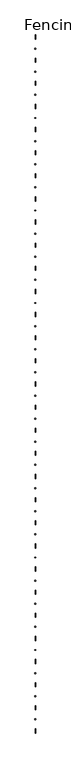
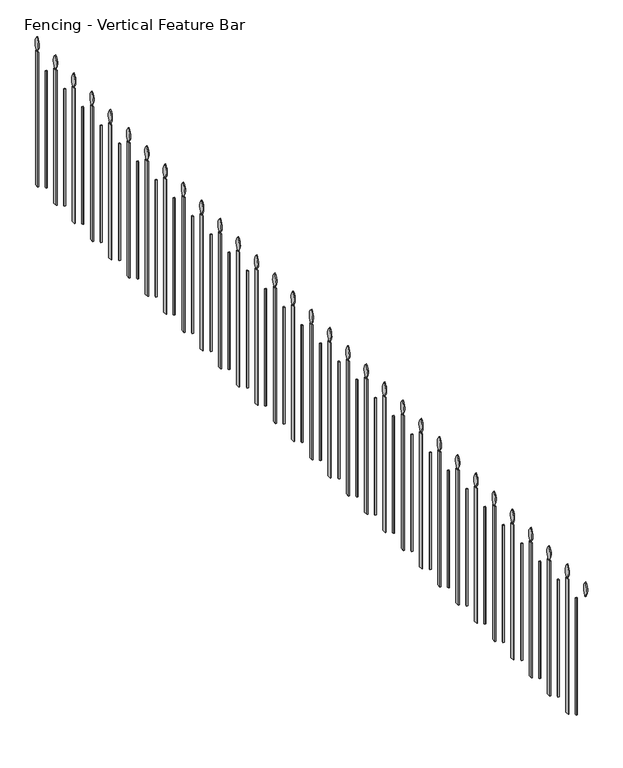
"""IFC4 building model written with IfcOpenShell, lengths in millimetres: railing geometry, Fencing - Vertical Feature Bar."""

from ifc_helpers import new_model, si_unit, point, frame, frame_2d, origin, place, context, project, spatial, polyline, circle_curve, trimmed, segment, composite_curve, outline, extrude, source, transform, mapped, element, save


def fencing_vertical_feature_bar_773a242a(model_context):
    return source(origin(), model_context, "Body", "SweptSolid", [
        extrude(outline(composite_curve([segment(polyline([(-49531.9450079, 950.0), (-49531.9450079, 955.0)]), True, "CONTINUOUS"), segment(trimmed(circle_curve(frame_2d((-49478.8047438, 998.5697142)), 68.7183212), [point((-49531.9450079, 955.0))], [point((-49529.0868221, 1045.4090168))], False, "CARTESIAN"), True, "CONTINUOUS"), segment(trimmed(circle_curve(frame_2d((-49579.3689003, 998.5697142)), 68.7183212), [point((-49529.0868221, 1045.4090168))], [point((-49526.2286362, 955.0))], False, "CARTESIAN"), True, "CONTINUOUS"), segment(polyline([(-49526.2286362, 955.0), (-49526.2286362, 950.0), (-49531.9450079, 950.0)]), True, "CONTINUOUS")], self_intersect=False)), frame((46170.9324334, 0.0, 0.0), z_axis=(1.0, 0.0, 0.0), x_axis=(0.0, 1.0, 0.0)), (0.0, 0.0, 1.0), 5.0),
        extrude(outline(polyline([(46170.9324334, -49516.5868221), (46175.9324334, -49516.5868221), (46175.9324334, -49541.5868221), (46170.9324334, -49541.5868221), (46170.9324334, -49516.5868221)])), frame((0.0, 0.0, 50.0), z_axis=(0.0, 0.0, 1.0), x_axis=(1.0, 0.0, 0.0)), (0.0, 0.0, 1.0), 900.0),
        extrude(outline(polyline([(46177.4324334, -49633.0868221), (46169.4324334, -49633.0868221), (46169.4324334, -49625.0868221), (46177.4324334, -49625.0868221), (46177.4324334, -49633.0868221)])), frame((0.0, 0.0, 100.0), z_axis=(0.0, 0.0, 1.0), x_axis=(1.0, 0.0, 0.0)), (0.0, 0.0, 1.0), 780.0),
        extrude(outline(composite_curve([segment(polyline([(-49731.9450079, 950.0), (-49731.9450079, 955.0)]), True, "CONTINUOUS"), segment(trimmed(circle_curve(frame_2d((-49678.8047438, 998.5697142)), 68.7183212), [point((-49731.9450079, 955.0))], [point((-49729.0868221, 1045.4090168))], False, "CARTESIAN"), True, "CONTINUOUS"), segment(trimmed(circle_curve(frame_2d((-49779.3689003, 998.5697142)), 68.7183212), [point((-49729.0868221, 1045.4090168))], [point((-49726.2286362, 955.0))], False, "CARTESIAN"), True, "CONTINUOUS"), segment(polyline([(-49726.2286362, 955.0), (-49726.2286362, 950.0), (-49731.9450079, 950.0)]), True, "CONTINUOUS")], self_intersect=False)), frame((46170.9324334, 0.0, 0.0), z_axis=(1.0, 0.0, 0.0), x_axis=(0.0, 1.0, 0.0)), (0.0, 0.0, 1.0), 5.0),
        extrude(outline(polyline([(46170.9324334, -49716.5868221), (46175.9324334, -49716.5868221), (46175.9324334, -49741.5868221), (46170.9324334, -49741.5868221), (46170.9324334, -49716.5868221)])), frame((0.0, 0.0, 50.0), z_axis=(0.0, 0.0, 1.0), x_axis=(1.0, 0.0, 0.0)), (0.0, 0.0, 1.0), 900.0),
        extrude(outline(polyline([(46177.4324334, -49833.0868221), (46169.4324334, -49833.0868221), (46169.4324334, -49825.0868221), (46177.4324334, -49825.0868221), (46177.4324334, -49833.0868221)])), frame((0.0, 0.0, 100.0), z_axis=(0.0, 0.0, 1.0), x_axis=(1.0, 0.0, 0.0)), (0.0, 0.0, 1.0), 780.0),
        extrude(outline(composite_curve([segment(polyline([(-49931.9450079, 950.0), (-49931.9450079, 955.0)]), True, "CONTINUOUS"), segment(trimmed(circle_curve(frame_2d((-49878.8047438, 998.5697142)), 68.7183212), [point((-49931.9450079, 955.0))], [point((-49929.0868221, 1045.4090168))], False, "CARTESIAN"), True, "CONTINUOUS"), segment(trimmed(circle_curve(frame_2d((-49979.3689003, 998.5697142)), 68.7183212), [point((-49929.0868221, 1045.4090168))], [point((-49926.2286362, 955.0))], False, "CARTESIAN"), True, "CONTINUOUS"), segment(polyline([(-49926.2286362, 955.0), (-49926.2286362, 950.0), (-49931.9450079, 950.0)]), True, "CONTINUOUS")], self_intersect=False)), frame((46170.9324334, 0.0, 0.0), z_axis=(1.0, 0.0, 0.0), x_axis=(0.0, 1.0, 0.0)), (0.0, 0.0, 1.0), 5.0),
        extrude(outline(polyline([(46170.9324334, -49916.5868221), (46175.9324334, -49916.5868221), (46175.9324334, -49941.5868221), (46170.9324334, -49941.5868221), (46170.9324334, -49916.5868221)])), frame((0.0, 0.0, 50.0), z_axis=(0.0, 0.0, 1.0), x_axis=(1.0, 0.0, 0.0)), (0.0, 0.0, 1.0), 900.0),
        extrude(outline(polyline([(46177.4324334, -50033.0868221), (46169.4324334, -50033.0868221), (46169.4324334, -50025.0868221), (46177.4324334, -50025.0868221), (46177.4324334, -50033.0868221)])), frame((0.0, 0.0, 100.0), z_axis=(0.0, 0.0, 1.0), x_axis=(1.0, 0.0, 0.0)), (0.0, 0.0, 1.0), 780.0),
        extrude(outline(composite_curve([segment(polyline([(-50131.9450079, 950.0), (-50131.9450079, 955.0)]), True, "CONTINUOUS"), segment(trimmed(circle_curve(frame_2d((-50078.8047438, 998.5697142)), 68.7183212), [point((-50131.9450079, 955.0))], [point((-50129.0868221, 1045.4090168))], False, "CARTESIAN"), True, "CONTINUOUS"), segment(trimmed(circle_curve(frame_2d((-50179.3689003, 998.5697142)), 68.7183212), [point((-50129.0868221, 1045.4090168))], [point((-50126.2286362, 955.0))], False, "CARTESIAN"), True, "CONTINUOUS"), segment(polyline([(-50126.2286362, 955.0), (-50126.2286362, 950.0), (-50131.9450079, 950.0)]), True, "CONTINUOUS")], self_intersect=False)), frame((46170.9324334, 0.0, 0.0), z_axis=(1.0, 0.0, 0.0), x_axis=(0.0, 1.0, 0.0)), (0.0, 0.0, 1.0), 5.0),
        extrude(outline(polyline([(46170.9324334, -50116.5868221), (46175.9324334, -50116.5868221), (46175.9324334, -50141.5868221), (46170.9324334, -50141.5868221), (46170.9324334, -50116.5868221)])), frame((0.0, 0.0, 50.0), z_axis=(0.0, 0.0, 1.0), x_axis=(1.0, 0.0, 0.0)), (0.0, 0.0, 1.0), 900.0),
        extrude(outline(polyline([(46177.4324334, -50233.0868221), (46169.4324334, -50233.0868221), (46169.4324334, -50225.0868221), (46177.4324334, -50225.0868221), (46177.4324334, -50233.0868221)])), frame((0.0, 0.0, 100.0), z_axis=(0.0, 0.0, 1.0), x_axis=(1.0, 0.0, 0.0)), (0.0, 0.0, 1.0), 780.0),
        extrude(outline(composite_curve([segment(polyline([(-50331.9450079, 950.0), (-50331.9450079, 955.0)]), True, "CONTINUOUS"), segment(trimmed(circle_curve(frame_2d((-50278.8047438, 998.5697142)), 68.7183212), [point((-50331.9450079, 955.0))], [point((-50329.0868221, 1045.4090168))], False, "CARTESIAN"), True, "CONTINUOUS"), segment(trimmed(circle_curve(frame_2d((-50379.3689003, 998.5697142)), 68.7183212), [point((-50329.0868221, 1045.4090168))], [point((-50326.2286362, 955.0))], False, "CARTESIAN"), True, "CONTINUOUS"), segment(polyline([(-50326.2286362, 955.0), (-50326.2286362, 950.0), (-50331.9450079, 950.0)]), True, "CONTINUOUS")], self_intersect=False)), frame((46170.9324334, 0.0, 0.0), z_axis=(1.0, 0.0, 0.0), x_axis=(0.0, 1.0, 0.0)), (0.0, 0.0, 1.0), 5.0),
        extrude(outline(polyline([(46170.9324334, -50316.5868221), (46175.9324334, -50316.5868221), (46175.9324334, -50341.5868221), (46170.9324334, -50341.5868221), (46170.9324334, -50316.5868221)])), frame((0.0, 0.0, 50.0), z_axis=(0.0, 0.0, 1.0), x_axis=(1.0, 0.0, 0.0)), (0.0, 0.0, 1.0), 900.0),
        extrude(outline(polyline([(46177.4324334, -50433.0868221), (46169.4324334, -50433.0868221), (46169.4324334, -50425.0868221), (46177.4324334, -50425.0868221), (46177.4324334, -50433.0868221)])), frame((0.0, 0.0, 100.0), z_axis=(0.0, 0.0, 1.0), x_axis=(1.0, 0.0, 0.0)), (0.0, 0.0, 1.0), 780.0),
        extrude(outline(composite_curve([segment(polyline([(-50531.9450079, 950.0), (-50531.9450079, 955.0)]), True, "CONTINUOUS"), segment(trimmed(circle_curve(frame_2d((-50478.8047438, 998.5697142)), 68.7183212), [point((-50531.9450079, 955.0))], [point((-50529.0868221, 1045.4090168))], False, "CARTESIAN"), True, "CONTINUOUS"), segment(trimmed(circle_curve(frame_2d((-50579.3689003, 998.5697142)), 68.7183212), [point((-50529.0868221, 1045.4090168))], [point((-50526.2286362, 955.0))], False, "CARTESIAN"), True, "CONTINUOUS"), segment(polyline([(-50526.2286362, 955.0), (-50526.2286362, 950.0), (-50531.9450079, 950.0)]), True, "CONTINUOUS")], self_intersect=False)), frame((46170.9324334, 0.0, 0.0), z_axis=(1.0, 0.0, 0.0), x_axis=(0.0, 1.0, 0.0)), (0.0, 0.0, 1.0), 5.0),
        extrude(outline(polyline([(46170.9324334, -50516.5868221), (46175.9324334, -50516.5868221), (46175.9324334, -50541.5868221), (46170.9324334, -50541.5868221), (46170.9324334, -50516.5868221)])), frame((0.0, 0.0, 50.0), z_axis=(0.0, 0.0, 1.0), x_axis=(1.0, 0.0, 0.0)), (0.0, 0.0, 1.0), 900.0),
        extrude(outline(polyline([(46177.4324334, -50633.0868221), (46169.4324334, -50633.0868221), (46169.4324334, -50625.0868221), (46177.4324334, -50625.0868221), (46177.4324334, -50633.0868221)])), frame((0.0, 0.0, 100.0), z_axis=(0.0, 0.0, 1.0), x_axis=(1.0, 0.0, 0.0)), (0.0, 0.0, 1.0), 780.0),
        extrude(outline(composite_curve([segment(polyline([(-50731.9450079, 950.0), (-50731.9450079, 955.0)]), True, "CONTINUOUS"), segment(trimmed(circle_curve(frame_2d((-50678.8047438, 998.5697142)), 68.7183212), [point((-50731.9450079, 955.0))], [point((-50729.0868221, 1045.4090168))], False, "CARTESIAN"), True, "CONTINUOUS"), segment(trimmed(circle_curve(frame_2d((-50779.3689003, 998.5697142)), 68.7183212), [point((-50729.0868221, 1045.4090168))], [point((-50726.2286362, 955.0))], False, "CARTESIAN"), True, "CONTINUOUS"), segment(polyline([(-50726.2286362, 955.0), (-50726.2286362, 950.0), (-50731.9450079, 950.0)]), True, "CONTINUOUS")], self_intersect=False)), frame((46170.9324334, 0.0, 0.0), z_axis=(1.0, 0.0, 0.0), x_axis=(0.0, 1.0, 0.0)), (0.0, 0.0, 1.0), 5.0),
        extrude(outline(polyline([(46170.9324334, -50716.5868221), (46175.9324334, -50716.5868221), (46175.9324334, -50741.5868221), (46170.9324334, -50741.5868221), (46170.9324334, -50716.5868221)])), frame((0.0, 0.0, 50.0), z_axis=(0.0, 0.0, 1.0), x_axis=(1.0, 0.0, 0.0)), (0.0, 0.0, 1.0), 900.0),
        extrude(outline(polyline([(46177.4324334, -50833.0868221), (46169.4324334, -50833.0868221), (46169.4324334, -50825.0868221), (46177.4324334, -50825.0868221), (46177.4324334, -50833.0868221)])), frame((0.0, 0.0, 100.0), z_axis=(0.0, 0.0, 1.0), x_axis=(1.0, 0.0, 0.0)), (0.0, 0.0, 1.0), 780.0),
        extrude(outline(composite_curve([segment(polyline([(-50931.9450079, 950.0), (-50931.9450079, 955.0)]), True, "CONTINUOUS"), segment(trimmed(circle_curve(frame_2d((-50878.8047438, 998.5697142)), 68.7183212), [point((-50931.9450079, 955.0))], [point((-50929.0868221, 1045.4090168))], False, "CARTESIAN"), True, "CONTINUOUS"), segment(trimmed(circle_curve(frame_2d((-50979.3689003, 998.5697142)), 68.7183212), [point((-50929.0868221, 1045.4090168))], [point((-50926.2286362, 955.0))], False, "CARTESIAN"), True, "CONTINUOUS"), segment(polyline([(-50926.2286362, 955.0), (-50926.2286362, 950.0), (-50931.9450079, 950.0)]), True, "CONTINUOUS")], self_intersect=False)), frame((46170.9324334, 0.0, 0.0), z_axis=(1.0, 0.0, 0.0), x_axis=(0.0, 1.0, 0.0)), (0.0, 0.0, 1.0), 5.0),
        extrude(outline(polyline([(46170.9324334, -50916.5868221), (46175.9324334, -50916.5868221), (46175.9324334, -50941.5868221), (46170.9324334, -50941.5868221), (46170.9324334, -50916.5868221)])), frame((0.0, 0.0, 50.0), z_axis=(0.0, 0.0, 1.0), x_axis=(1.0, 0.0, 0.0)), (0.0, 0.0, 1.0), 900.0),
        extrude(outline(polyline([(46177.4324334, -51033.0868221), (46169.4324334, -51033.0868221), (46169.4324334, -51025.0868221), (46177.4324334, -51025.0868221), (46177.4324334, -51033.0868221)])), frame((0.0, 0.0, 100.0), z_axis=(0.0, 0.0, 1.0), x_axis=(1.0, 0.0, 0.0)), (0.0, 0.0, 1.0), 780.0),
        extrude(outline(composite_curve([segment(polyline([(-51131.9450079, 950.0), (-51131.9450079, 955.0)]), True, "CONTINUOUS"), segment(trimmed(circle_curve(frame_2d((-51078.8047438, 998.5697142)), 68.7183212), [point((-51131.9450079, 955.0))], [point((-51129.0868221, 1045.4090168))], False, "CARTESIAN"), True, "CONTINUOUS"), segment(trimmed(circle_curve(frame_2d((-51179.3689003, 998.5697142)), 68.7183212), [point((-51129.0868221, 1045.4090168))], [point((-51126.2286362, 955.0))], False, "CARTESIAN"), True, "CONTINUOUS"), segment(polyline([(-51126.2286362, 955.0), (-51126.2286362, 950.0), (-51131.9450079, 950.0)]), True, "CONTINUOUS")], self_intersect=False)), frame((46170.9324334, 0.0, 0.0), z_axis=(1.0, 0.0, 0.0), x_axis=(0.0, 1.0, 0.0)), (0.0, 0.0, 1.0), 5.0),
        extrude(outline(polyline([(46170.9324334, -51116.5868221), (46175.9324334, -51116.5868221), (46175.9324334, -51141.5868221), (46170.9324334, -51141.5868221), (46170.9324334, -51116.5868221)])), frame((0.0, 0.0, 50.0), z_axis=(0.0, 0.0, 1.0), x_axis=(1.0, 0.0, 0.0)), (0.0, 0.0, 1.0), 900.0),
        extrude(outline(polyline([(46177.4324334, -51233.0868221), (46169.4324334, -51233.0868221), (46169.4324334, -51225.0868221), (46177.4324334, -51225.0868221), (46177.4324334, -51233.0868221)])), frame((0.0, 0.0, 100.0), z_axis=(0.0, 0.0, 1.0), x_axis=(1.0, 0.0, 0.0)), (0.0, 0.0, 1.0), 780.0),
        extrude(outline(composite_curve([segment(polyline([(-51331.9450079, 950.0), (-51331.9450079, 955.0)]), True, "CONTINUOUS"), segment(trimmed(circle_curve(frame_2d((-51278.8047438, 998.5697142)), 68.7183212), [point((-51331.9450079, 955.0))], [point((-51329.0868221, 1045.4090168))], False, "CARTESIAN"), True, "CONTINUOUS"), segment(trimmed(circle_curve(frame_2d((-51379.3689003, 998.5697142)), 68.7183212), [point((-51329.0868221, 1045.4090168))], [point((-51326.2286362, 955.0))], False, "CARTESIAN"), True, "CONTINUOUS"), segment(polyline([(-51326.2286362, 955.0), (-51326.2286362, 950.0), (-51331.9450079, 950.0)]), True, "CONTINUOUS")], self_intersect=False)), frame((46170.9324334, 0.0, 0.0), z_axis=(1.0, 0.0, 0.0), x_axis=(0.0, 1.0, 0.0)), (0.0, 0.0, 1.0), 5.0),
        extrude(outline(polyline([(46170.9324334, -51316.5868221), (46175.9324334, -51316.5868221), (46175.9324334, -51341.5868221), (46170.9324334, -51341.5868221), (46170.9324334, -51316.5868221)])), frame((0.0, 0.0, 50.0), z_axis=(0.0, 0.0, 1.0), x_axis=(1.0, 0.0, 0.0)), (0.0, 0.0, 1.0), 900.0),
        extrude(outline(polyline([(46177.4324334, -51433.0868221), (46169.4324334, -51433.0868221), (46169.4324334, -51425.0868221), (46177.4324334, -51425.0868221), (46177.4324334, -51433.0868221)])), frame((0.0, 0.0, 100.0), z_axis=(0.0, 0.0, 1.0), x_axis=(1.0, 0.0, 0.0)), (0.0, 0.0, 1.0), 780.0),
        extrude(outline(composite_curve([segment(polyline([(-51531.9450079, 950.0), (-51531.9450079, 955.0)]), True, "CONTINUOUS"), segment(trimmed(circle_curve(frame_2d((-51478.8047438, 998.5697142)), 68.7183212), [point((-51531.9450079, 955.0))], [point((-51529.0868221, 1045.4090168))], False, "CARTESIAN"), True, "CONTINUOUS"), segment(trimmed(circle_curve(frame_2d((-51579.3689003, 998.5697142)), 68.7183212), [point((-51529.0868221, 1045.4090168))], [point((-51526.2286362, 955.0))], False, "CARTESIAN"), True, "CONTINUOUS"), segment(polyline([(-51526.2286362, 955.0), (-51526.2286362, 950.0), (-51531.9450079, 950.0)]), True, "CONTINUOUS")], self_intersect=False)), frame((46170.9324334, 0.0, 0.0), z_axis=(1.0, 0.0, 0.0), x_axis=(0.0, 1.0, 0.0)), (0.0, 0.0, 1.0), 5.0),
        extrude(outline(polyline([(46170.9324334, -51516.5868221), (46175.9324334, -51516.5868221), (46175.9324334, -51541.5868221), (46170.9324334, -51541.5868221), (46170.9324334, -51516.5868221)])), frame((0.0, 0.0, 50.0), z_axis=(0.0, 0.0, 1.0), x_axis=(1.0, 0.0, 0.0)), (0.0, 0.0, 1.0), 900.0),
        extrude(outline(polyline([(46177.4324334, -51633.0868221), (46169.4324334, -51633.0868221), (46169.4324334, -51625.0868221), (46177.4324334, -51625.0868221), (46177.4324334, -51633.0868221)])), frame((0.0, 0.0, 100.0), z_axis=(0.0, 0.0, 1.0), x_axis=(1.0, 0.0, 0.0)), (0.0, 0.0, 1.0), 780.0),
        extrude(outline(composite_curve([segment(polyline([(-51731.9450079, 950.0), (-51731.9450079, 955.0)]), True, "CONTINUOUS"), segment(trimmed(circle_curve(frame_2d((-51678.8047438, 998.5697142)), 68.7183212), [point((-51731.9450079, 955.0))], [point((-51729.0868221, 1045.4090168))], False, "CARTESIAN"), True, "CONTINUOUS"), segment(trimmed(circle_curve(frame_2d((-51779.3689003, 998.5697142)), 68.7183212), [point((-51729.0868221, 1045.4090168))], [point((-51726.2286362, 955.0))], False, "CARTESIAN"), True, "CONTINUOUS"), segment(polyline([(-51726.2286362, 955.0), (-51726.2286362, 950.0), (-51731.9450079, 950.0)]), True, "CONTINUOUS")], self_intersect=False)), frame((46170.9324334, 0.0, 0.0), z_axis=(1.0, 0.0, 0.0), x_axis=(0.0, 1.0, 0.0)), (0.0, 0.0, 1.0), 5.0),
        extrude(outline(polyline([(46170.9324334, -51716.5868221), (46175.9324334, -51716.5868221), (46175.9324334, -51741.5868221), (46170.9324334, -51741.5868221), (46170.9324334, -51716.5868221)])), frame((0.0, 0.0, 50.0), z_axis=(0.0, 0.0, 1.0), x_axis=(1.0, 0.0, 0.0)), (0.0, 0.0, 1.0), 900.0),
        extrude(outline(polyline([(46177.4324334, -51833.0868221), (46169.4324334, -51833.0868221), (46169.4324334, -51825.0868221), (46177.4324334, -51825.0868221), (46177.4324334, -51833.0868221)])), frame((0.0, 0.0, 100.0), z_axis=(0.0, 0.0, 1.0), x_axis=(1.0, 0.0, 0.0)), (0.0, 0.0, 1.0), 780.0),
        extrude(outline(composite_curve([segment(polyline([(-51931.9450079, 950.0), (-51931.9450079, 955.0)]), True, "CONTINUOUS"), segment(trimmed(circle_curve(frame_2d((-51878.8047438, 998.5697142)), 68.7183212), [point((-51931.9450079, 955.0))], [point((-51929.0868221, 1045.4090168))], False, "CARTESIAN"), True, "CONTINUOUS"), segment(trimmed(circle_curve(frame_2d((-51979.3689003, 998.5697142)), 68.7183212), [point((-51929.0868221, 1045.4090168))], [point((-51926.2286362, 955.0))], False, "CARTESIAN"), True, "CONTINUOUS"), segment(polyline([(-51926.2286362, 955.0), (-51926.2286362, 950.0), (-51931.9450079, 950.0)]), True, "CONTINUOUS")], self_intersect=False)), frame((46170.9324334, 0.0, 0.0), z_axis=(1.0, 0.0, 0.0), x_axis=(0.0, 1.0, 0.0)), (0.0, 0.0, 1.0), 5.0),
        extrude(outline(polyline([(46170.9324334, -51916.5868221), (46175.9324334, -51916.5868221), (46175.9324334, -51941.5868221), (46170.9324334, -51941.5868221), (46170.9324334, -51916.5868221)])), frame((0.0, 0.0, 50.0), z_axis=(0.0, 0.0, 1.0), x_axis=(1.0, 0.0, 0.0)), (0.0, 0.0, 1.0), 900.0),
        extrude(outline(polyline([(46177.4324334, -52033.0868221), (46169.4324334, -52033.0868221), (46169.4324334, -52025.0868221), (46177.4324334, -52025.0868221), (46177.4324334, -52033.0868221)])), frame((0.0, 0.0, 100.0), z_axis=(0.0, 0.0, 1.0), x_axis=(1.0, 0.0, 0.0)), (0.0, 0.0, 1.0), 780.0),
        extrude(outline(composite_curve([segment(polyline([(-52131.9450079, 950.0), (-52131.9450079, 955.0)]), True, "CONTINUOUS"), segment(trimmed(circle_curve(frame_2d((-52078.8047438, 998.5697142)), 68.7183212), [point((-52131.9450079, 955.0))], [point((-52129.0868221, 1045.4090168))], False, "CARTESIAN"), True, "CONTINUOUS"), segment(trimmed(circle_curve(frame_2d((-52179.3689003, 998.5697142)), 68.7183212), [point((-52129.0868221, 1045.4090168))], [point((-52126.2286362, 955.0))], False, "CARTESIAN"), True, "CONTINUOUS"), segment(polyline([(-52126.2286362, 955.0), (-52126.2286362, 950.0), (-52131.9450079, 950.0)]), True, "CONTINUOUS")], self_intersect=False)), frame((46170.9324334, 0.0, 0.0), z_axis=(1.0, 0.0, 0.0), x_axis=(0.0, 1.0, 0.0)), (0.0, 0.0, 1.0), 5.0),
        extrude(outline(polyline([(46170.9324334, -52116.5868221), (46175.9324334, -52116.5868221), (46175.9324334, -52141.5868221), (46170.9324334, -52141.5868221), (46170.9324334, -52116.5868221)])), frame((0.0, 0.0, 50.0), z_axis=(0.0, 0.0, 1.0), x_axis=(1.0, 0.0, 0.0)), (0.0, 0.0, 1.0), 900.0),
        extrude(outline(polyline([(46177.4324334, -52233.0868221), (46169.4324334, -52233.0868221), (46169.4324334, -52225.0868221), (46177.4324334, -52225.0868221), (46177.4324334, -52233.0868221)])), frame((0.0, 0.0, 100.0), z_axis=(0.0, 0.0, 1.0), x_axis=(1.0, 0.0, 0.0)), (0.0, 0.0, 1.0), 780.0),
        extrude(outline(composite_curve([segment(polyline([(-52331.9450079, 950.0), (-52331.9450079, 955.0)]), True, "CONTINUOUS"), segment(trimmed(circle_curve(frame_2d((-52278.8047438, 998.5697142)), 68.7183212), [point((-52331.9450079, 955.0))], [point((-52329.0868221, 1045.4090168))], False, "CARTESIAN"), True, "CONTINUOUS"), segment(trimmed(circle_curve(frame_2d((-52379.3689003, 998.5697142)), 68.7183212), [point((-52329.0868221, 1045.4090168))], [point((-52326.2286362, 955.0))], False, "CARTESIAN"), True, "CONTINUOUS"), segment(polyline([(-52326.2286362, 955.0), (-52326.2286362, 950.0), (-52331.9450079, 950.0)]), True, "CONTINUOUS")], self_intersect=False)), frame((46170.9324334, 0.0, 0.0), z_axis=(1.0, 0.0, 0.0), x_axis=(0.0, 1.0, 0.0)), (0.0, 0.0, 1.0), 5.0),
        extrude(outline(polyline([(46170.9324334, -52316.5868221), (46175.9324334, -52316.5868221), (46175.9324334, -52341.5868221), (46170.9324334, -52341.5868221), (46170.9324334, -52316.5868221)])), frame((0.0, 0.0, 50.0), z_axis=(0.0, 0.0, 1.0), x_axis=(1.0, 0.0, 0.0)), (0.0, 0.0, 1.0), 900.0),
        extrude(outline(polyline([(46177.4324334, -52433.0868221), (46169.4324334, -52433.0868221), (46169.4324334, -52425.0868221), (46177.4324334, -52425.0868221), (46177.4324334, -52433.0868221)])), frame((0.0, 0.0, 100.0), z_axis=(0.0, 0.0, 1.0), x_axis=(1.0, 0.0, 0.0)), (0.0, 0.0, 1.0), 780.0),
        extrude(outline(composite_curve([segment(polyline([(-52531.9450079, 950.0), (-52531.9450079, 955.0)]), True, "CONTINUOUS"), segment(trimmed(circle_curve(frame_2d((-52478.8047438, 998.5697142)), 68.7183212), [point((-52531.9450079, 955.0))], [point((-52529.0868221, 1045.4090168))], False, "CARTESIAN"), True, "CONTINUOUS"), segment(trimmed(circle_curve(frame_2d((-52579.3689003, 998.5697142)), 68.7183212), [point((-52529.0868221, 1045.4090168))], [point((-52526.2286362, 955.0))], False, "CARTESIAN"), True, "CONTINUOUS"), segment(polyline([(-52526.2286362, 955.0), (-52526.2286362, 950.0), (-52531.9450079, 950.0)]), True, "CONTINUOUS")], self_intersect=False)), frame((46170.9324334, 0.0, 0.0), z_axis=(1.0, 0.0, 0.0), x_axis=(0.0, 1.0, 0.0)), (0.0, 0.0, 1.0), 5.0),
        extrude(outline(polyline([(46170.9324334, -52516.5868221), (46175.9324334, -52516.5868221), (46175.9324334, -52541.5868221), (46170.9324334, -52541.5868221), (46170.9324334, -52516.5868221)])), frame((0.0, 0.0, 50.0), z_axis=(0.0, 0.0, 1.0), x_axis=(1.0, 0.0, 0.0)), (0.0, 0.0, 1.0), 900.0),
        extrude(outline(polyline([(46177.4324334, -52633.0868221), (46169.4324334, -52633.0868221), (46169.4324334, -52625.0868221), (46177.4324334, -52625.0868221), (46177.4324334, -52633.0868221)])), frame((0.0, 0.0, 100.0), z_axis=(0.0, 0.0, 1.0), x_axis=(1.0, 0.0, 0.0)), (0.0, 0.0, 1.0), 780.0),
        extrude(outline(composite_curve([segment(polyline([(-52731.9450079, 950.0), (-52731.9450079, 955.0)]), True, "CONTINUOUS"), segment(trimmed(circle_curve(frame_2d((-52678.8047438, 998.5697142)), 68.7183212), [point((-52731.9450079, 955.0))], [point((-52729.0868221, 1045.4090168))], False, "CARTESIAN"), True, "CONTINUOUS"), segment(trimmed(circle_curve(frame_2d((-52779.3689003, 998.5697142)), 68.7183212), [point((-52729.0868221, 1045.4090168))], [point((-52726.2286362, 955.0))], False, "CARTESIAN"), True, "CONTINUOUS"), segment(polyline([(-52726.2286362, 955.0), (-52726.2286362, 950.0), (-52731.9450079, 950.0)]), True, "CONTINUOUS")], self_intersect=False)), frame((46170.9324334, 0.0, 0.0), z_axis=(1.0, 0.0, 0.0), x_axis=(0.0, 1.0, 0.0)), (0.0, 0.0, 1.0), 5.0),
        extrude(outline(polyline([(46170.9324334, -52716.5868221), (46175.9324334, -52716.5868221), (46175.9324334, -52741.5868221), (46170.9324334, -52741.5868221), (46170.9324334, -52716.5868221)])), frame((0.0, 0.0, 50.0), z_axis=(0.0, 0.0, 1.0), x_axis=(1.0, 0.0, 0.0)), (0.0, 0.0, 1.0), 900.0),
        extrude(outline(polyline([(46177.4324334, -52833.0868221), (46169.4324334, -52833.0868221), (46169.4324334, -52825.0868221), (46177.4324334, -52825.0868221), (46177.4324334, -52833.0868221)])), frame((0.0, 0.0, 100.0), z_axis=(0.0, 0.0, 1.0), x_axis=(1.0, 0.0, 0.0)), (0.0, 0.0, 1.0), 780.0),
        extrude(outline(composite_curve([segment(polyline([(-52931.9450079, 950.0), (-52931.9450079, 955.0)]), True, "CONTINUOUS"), segment(trimmed(circle_curve(frame_2d((-52878.8047438, 998.5697142)), 68.7183212), [point((-52931.9450079, 955.0))], [point((-52929.0868221, 1045.4090168))], False, "CARTESIAN"), True, "CONTINUOUS"), segment(trimmed(circle_curve(frame_2d((-52979.3689003, 998.5697142)), 68.7183212), [point((-52929.0868221, 1045.4090168))], [point((-52926.2286362, 955.0))], False, "CARTESIAN"), True, "CONTINUOUS"), segment(polyline([(-52926.2286362, 955.0), (-52926.2286362, 950.0), (-52931.9450079, 950.0)]), True, "CONTINUOUS")], self_intersect=False)), frame((46170.9324334, 0.0, 0.0), z_axis=(1.0, 0.0, 0.0), x_axis=(0.0, 1.0, 0.0)), (0.0, 0.0, 1.0), 5.0),
        extrude(outline(polyline([(46170.9324334, -52916.5868221), (46175.9324334, -52916.5868221), (46175.9324334, -52941.5868221), (46170.9324334, -52941.5868221), (46170.9324334, -52916.5868221)])), frame((0.0, 0.0, 50.0), z_axis=(0.0, 0.0, 1.0), x_axis=(1.0, 0.0, 0.0)), (0.0, 0.0, 1.0), 900.0),
        extrude(outline(polyline([(46177.4324334, -53033.0868221), (46169.4324334, -53033.0868221), (46169.4324334, -53025.0868221), (46177.4324334, -53025.0868221), (46177.4324334, -53033.0868221)])), frame((0.0, 0.0, 100.0), z_axis=(0.0, 0.0, 1.0), x_axis=(1.0, 0.0, 0.0)), (0.0, 0.0, 1.0), 780.0),
        extrude(outline(composite_curve([segment(polyline([(-53131.9450079, 950.0), (-53131.9450079, 955.0)]), True, "CONTINUOUS"), segment(trimmed(circle_curve(frame_2d((-53078.8047438, 998.5697142)), 68.7183212), [point((-53131.9450079, 955.0))], [point((-53129.0868221, 1045.4090168))], False, "CARTESIAN"), True, "CONTINUOUS"), segment(trimmed(circle_curve(frame_2d((-53179.3689003, 998.5697142)), 68.7183212), [point((-53129.0868221, 1045.4090168))], [point((-53126.2286362, 955.0))], False, "CARTESIAN"), True, "CONTINUOUS"), segment(polyline([(-53126.2286362, 955.0), (-53126.2286362, 950.0), (-53131.9450079, 950.0)]), True, "CONTINUOUS")], self_intersect=False)), frame((46170.9324334, 0.0, 0.0), z_axis=(1.0, 0.0, 0.0), x_axis=(0.0, 1.0, 0.0)), (0.0, 0.0, 1.0), 5.0),
        extrude(outline(polyline([(46170.9324334, -53116.5868221), (46175.9324334, -53116.5868221), (46175.9324334, -53141.5868221), (46170.9324334, -53141.5868221), (46170.9324334, -53116.5868221)])), frame((0.0, 0.0, 50.0), z_axis=(0.0, 0.0, 1.0), x_axis=(1.0, 0.0, 0.0)), (0.0, 0.0, 1.0), 900.0),
        extrude(outline(polyline([(46177.4324334, -53233.0868221), (46169.4324334, -53233.0868221), (46169.4324334, -53225.0868221), (46177.4324334, -53225.0868221), (46177.4324334, -53233.0868221)])), frame((0.0, 0.0, 100.0), z_axis=(0.0, 0.0, 1.0), x_axis=(1.0, 0.0, 0.0)), (0.0, 0.0, 1.0), 780.0),
        extrude(outline(composite_curve([segment(polyline([(-53331.9450079, 950.0), (-53331.9450079, 955.0)]), True, "CONTINUOUS"), segment(trimmed(circle_curve(frame_2d((-53278.8047438, 998.5697142)), 68.7183212), [point((-53331.9450079, 955.0))], [point((-53329.0868221, 1045.4090168))], False, "CARTESIAN"), True, "CONTINUOUS"), segment(trimmed(circle_curve(frame_2d((-53379.3689003, 998.5697142)), 68.7183212), [point((-53329.0868221, 1045.4090168))], [point((-53326.2286362, 955.0))], False, "CARTESIAN"), True, "CONTINUOUS"), segment(polyline([(-53326.2286362, 955.0), (-53326.2286362, 950.0), (-53331.9450079, 950.0)]), True, "CONTINUOUS")], self_intersect=False)), frame((46170.9324334, 0.0, 0.0), z_axis=(1.0, 0.0, 0.0), x_axis=(0.0, 1.0, 0.0)), (0.0, 0.0, 1.0), 5.0),
        extrude(outline(polyline([(46170.9324334, -53316.5868221), (46175.9324334, -53316.5868221), (46175.9324334, -53341.5868221), (46170.9324334, -53341.5868221), (46170.9324334, -53316.5868221)])), frame((0.0, 0.0, 50.0), z_axis=(0.0, 0.0, 1.0), x_axis=(1.0, 0.0, 0.0)), (0.0, 0.0, 1.0), 900.0),
        extrude(outline(polyline([(46177.4324334, -53433.0868221), (46169.4324334, -53433.0868221), (46169.4324334, -53425.0868221), (46177.4324334, -53425.0868221), (46177.4324334, -53433.0868221)])), frame((0.0, 0.0, 100.0), z_axis=(0.0, 0.0, 1.0), x_axis=(1.0, 0.0, 0.0)), (0.0, 0.0, 1.0), 780.0),
        extrude(outline(composite_curve([segment(polyline([(-53531.9450079, 950.0), (-53531.9450079, 955.0)]), True, "CONTINUOUS"), segment(trimmed(circle_curve(frame_2d((-53478.8047438, 998.5697142)), 68.7183212), [point((-53531.9450079, 955.0))], [point((-53529.0868221, 1045.4090168))], False, "CARTESIAN"), True, "CONTINUOUS"), segment(trimmed(circle_curve(frame_2d((-53579.3689003, 998.5697142)), 68.7183212), [point((-53529.0868221, 1045.4090168))], [point((-53526.2286362, 955.0))], False, "CARTESIAN"), True, "CONTINUOUS"), segment(polyline([(-53526.2286362, 955.0), (-53526.2286362, 950.0), (-53531.9450079, 950.0)]), True, "CONTINUOUS")], self_intersect=False)), frame((46170.9324334, 0.0, 0.0), z_axis=(1.0, 0.0, 0.0), x_axis=(0.0, 1.0, 0.0)), (0.0, 0.0, 1.0), 5.0),
        extrude(outline(polyline([(46170.9324334, -53516.5868221), (46175.9324334, -53516.5868221), (46175.9324334, -53541.5868221), (46170.9324334, -53541.5868221), (46170.9324334, -53516.5868221)])), frame((0.0, 0.0, 50.0), z_axis=(0.0, 0.0, 1.0), x_axis=(1.0, 0.0, 0.0)), (0.0, 0.0, 1.0), 900.0),
        extrude(outline(polyline([(46177.4324334, -53633.0868221), (46169.4324334, -53633.0868221), (46169.4324334, -53625.0868221), (46177.4324334, -53625.0868221), (46177.4324334, -53633.0868221)])), frame((0.0, 0.0, 100.0), z_axis=(0.0, 0.0, 1.0), x_axis=(1.0, 0.0, 0.0)), (0.0, 0.0, 1.0), 780.0),
        extrude(outline(composite_curve([segment(polyline([(-53731.9450079, 950.0), (-53731.9450079, 955.0)]), True, "CONTINUOUS"), segment(trimmed(circle_curve(frame_2d((-53678.8047438, 998.5697142)), 68.7183212), [point((-53731.9450079, 955.0))], [point((-53729.0868221, 1045.4090168))], False, "CARTESIAN"), True, "CONTINUOUS"), segment(trimmed(circle_curve(frame_2d((-53779.3689003, 998.5697142)), 68.7183212), [point((-53729.0868221, 1045.4090168))], [point((-53726.2286362, 955.0))], False, "CARTESIAN"), True, "CONTINUOUS"), segment(polyline([(-53726.2286362, 955.0), (-53726.2286362, 950.0), (-53731.9450079, 950.0)]), True, "CONTINUOUS")], self_intersect=False)), frame((46170.9324334, 0.0, 0.0), z_axis=(1.0, 0.0, 0.0), x_axis=(0.0, 1.0, 0.0)), (0.0, 0.0, 1.0), 5.0),
        extrude(outline(polyline([(46170.9324334, -53716.5868221), (46175.9324334, -53716.5868221), (46175.9324334, -53741.5868221), (46170.9324334, -53741.5868221), (46170.9324334, -53716.5868221)])), frame((0.0, 0.0, 50.0), z_axis=(0.0, 0.0, 1.0), x_axis=(1.0, 0.0, 0.0)), (0.0, 0.0, 1.0), 900.0),
        extrude(outline(polyline([(46177.4324334, -53833.0868221), (46169.4324334, -53833.0868221), (46169.4324334, -53825.0868221), (46177.4324334, -53825.0868221), (46177.4324334, -53833.0868221)])), frame((0.0, 0.0, 100.0), z_axis=(0.0, 0.0, 1.0), x_axis=(1.0, 0.0, 0.0)), (0.0, 0.0, 1.0), 780.0),
        extrude(outline(composite_curve([segment(polyline([(-53931.9450079, 950.0), (-53931.9450079, 955.0)]), True, "CONTINUOUS"), segment(trimmed(circle_curve(frame_2d((-53878.8047438, 998.5697142)), 68.7183212), [point((-53931.9450079, 955.0))], [point((-53929.0868221, 1045.4090168))], False, "CARTESIAN"), True, "CONTINUOUS"), segment(trimmed(circle_curve(frame_2d((-53979.3689003, 998.5697142)), 68.7183212), [point((-53929.0868221, 1045.4090168))], [point((-53926.2286362, 955.0))], False, "CARTESIAN"), True, "CONTINUOUS"), segment(polyline([(-53926.2286362, 955.0), (-53926.2286362, 950.0), (-53931.9450079, 950.0)]), True, "CONTINUOUS")], self_intersect=False)), frame((46170.9324334, 0.0, 0.0), z_axis=(1.0, 0.0, 0.0), x_axis=(0.0, 1.0, 0.0)), (0.0, 0.0, 1.0), 5.0),
        extrude(outline(polyline([(46170.9324334, -53916.5868221), (46175.9324334, -53916.5868221), (46175.9324334, -53941.5868221), (46170.9324334, -53941.5868221), (46170.9324334, -53916.5868221)])), frame((0.0, 0.0, 50.0), z_axis=(0.0, 0.0, 1.0), x_axis=(1.0, 0.0, 0.0)), (0.0, 0.0, 1.0), 900.0),
        extrude(outline(polyline([(46177.4324334, -54033.0868221), (46169.4324334, -54033.0868221), (46169.4324334, -54025.0868221), (46177.4324334, -54025.0868221), (46177.4324334, -54033.0868221)])), frame((0.0, 0.0, 100.0), z_axis=(0.0, 0.0, 1.0), x_axis=(1.0, 0.0, 0.0)), (0.0, 0.0, 1.0), 780.0),
        extrude(outline(composite_curve([segment(polyline([(-54131.9450079, 950.0), (-54131.9450079, 955.0)]), True, "CONTINUOUS"), segment(trimmed(circle_curve(frame_2d((-54078.8047438, 998.5697142)), 68.7183212), [point((-54131.9450079, 955.0))], [point((-54129.0868221, 1045.4090168))], False, "CARTESIAN"), True, "CONTINUOUS"), segment(trimmed(circle_curve(frame_2d((-54179.3689003, 998.5697142)), 68.7183212), [point((-54129.0868221, 1045.4090168))], [point((-54126.2286362, 955.0))], False, "CARTESIAN"), True, "CONTINUOUS"), segment(polyline([(-54126.2286362, 955.0), (-54126.2286362, 950.0), (-54131.9450079, 950.0)]), True, "CONTINUOUS")], self_intersect=False)), frame((46170.9324334, 0.0, 0.0), z_axis=(1.0, 0.0, 0.0), x_axis=(0.0, 1.0, 0.0)), (0.0, 0.0, 1.0), 5.0),
        extrude(outline(polyline([(46170.9324334, -54116.5868221), (46175.9324334, -54116.5868221), (46175.9324334, -54141.5868221), (46170.9324334, -54141.5868221), (46170.9324334, -54116.5868221)])), frame((0.0, 0.0, 50.0), z_axis=(0.0, 0.0, 1.0), x_axis=(1.0, 0.0, 0.0)), (0.0, 0.0, 1.0), 900.0),
        extrude(outline(polyline([(46177.4324334, -54233.0868221), (46169.4324334, -54233.0868221), (46169.4324334, -54225.0868221), (46177.4324334, -54225.0868221), (46177.4324334, -54233.0868221)])), frame((0.0, 0.0, 100.0), z_axis=(0.0, 0.0, 1.0), x_axis=(1.0, 0.0, 0.0)), (0.0, 0.0, 1.0), 780.0),
        extrude(outline(composite_curve([segment(polyline([(-54331.9450079, 950.0), (-54331.9450079, 955.0)]), True, "CONTINUOUS"), segment(trimmed(circle_curve(frame_2d((-54278.8047438, 998.5697142)), 68.7183212), [point((-54331.9450079, 955.0))], [point((-54329.0868221, 1045.4090168))], False, "CARTESIAN"), True, "CONTINUOUS"), segment(trimmed(circle_curve(frame_2d((-54379.3689003, 998.5697142)), 68.7183212), [point((-54329.0868221, 1045.4090168))], [point((-54326.2286362, 955.0))], False, "CARTESIAN"), True, "CONTINUOUS"), segment(polyline([(-54326.2286362, 955.0), (-54326.2286362, 950.0), (-54331.9450079, 950.0)]), True, "CONTINUOUS")], self_intersect=False)), frame((46170.9324334, 0.0, 0.0), z_axis=(1.0, 0.0, 0.0), x_axis=(0.0, 1.0, 0.0)), (0.0, 0.0, 1.0), 5.0),
        extrude(outline(polyline([(46170.9324334, -54316.5868221), (46175.9324334, -54316.5868221), (46175.9324334, -54341.5868221), (46170.9324334, -54341.5868221), (46170.9324334, -54316.5868221)])), frame((0.0, 0.0, 50.0), z_axis=(0.0, 0.0, 1.0), x_axis=(1.0, 0.0, 0.0)), (0.0, 0.0, 1.0), 900.0),
        extrude(outline(polyline([(46177.4324334, -54433.0868221), (46169.4324334, -54433.0868221), (46169.4324334, -54425.0868221), (46177.4324334, -54425.0868221), (46177.4324334, -54433.0868221)])), frame((0.0, 0.0, 100.0), z_axis=(0.0, 0.0, 1.0), x_axis=(1.0, 0.0, 0.0)), (0.0, 0.0, 1.0), 780.0),
        extrude(outline(composite_curve([segment(polyline([(-54531.9450079, 950.0), (-54531.9450079, 955.0)]), True, "CONTINUOUS"), segment(trimmed(circle_curve(frame_2d((-54478.8047438, 998.5697142)), 68.7183212), [point((-54531.9450079, 955.0))], [point((-54529.0868221, 1045.4090168))], False, "CARTESIAN"), True, "CONTINUOUS"), segment(trimmed(circle_curve(frame_2d((-54579.3689003, 998.5697142)), 68.7183212), [point((-54529.0868221, 1045.4090168))], [point((-54526.2286362, 955.0))], False, "CARTESIAN"), True, "CONTINUOUS"), segment(polyline([(-54526.2286362, 955.0), (-54526.2286362, 950.0), (-54531.9450079, 950.0)]), True, "CONTINUOUS")], self_intersect=False)), frame((46170.9324334, 0.0, 0.0), z_axis=(1.0, 0.0, 0.0), x_axis=(0.0, 1.0, 0.0)), (0.0, 0.0, 1.0), 5.0),
        extrude(outline(polyline([(46170.9324334, -54516.5868221), (46175.9324334, -54516.5868221), (46175.9324334, -54541.5868221), (46170.9324334, -54541.5868221), (46170.9324334, -54516.5868221)])), frame((0.0, 0.0, 50.0), z_axis=(0.0, 0.0, 1.0), x_axis=(1.0, 0.0, 0.0)), (0.0, 0.0, 1.0), 900.0),
        extrude(outline(polyline([(46177.4324334, -54633.0868221), (46169.4324334, -54633.0868221), (46169.4324334, -54625.0868221), (46177.4324334, -54625.0868221), (46177.4324334, -54633.0868221)])), frame((0.0, 0.0, 100.0), z_axis=(0.0, 0.0, 1.0), x_axis=(1.0, 0.0, 0.0)), (0.0, 0.0, 1.0), 780.0),
        extrude(outline(composite_curve([segment(polyline([(-54731.9450079, 950.0), (-54731.9450079, 955.0)]), True, "CONTINUOUS"), segment(trimmed(circle_curve(frame_2d((-54678.8047438, 998.5697142)), 68.7183212), [point((-54731.9450079, 955.0))], [point((-54729.0868221, 1045.4090168))], False, "CARTESIAN"), True, "CONTINUOUS"), segment(trimmed(circle_curve(frame_2d((-54779.3689003, 998.5697142)), 68.7183212), [point((-54729.0868221, 1045.4090168))], [point((-54726.2286362, 955.0))], False, "CARTESIAN"), True, "CONTINUOUS"), segment(polyline([(-54726.2286362, 955.0), (-54726.2286362, 950.0), (-54731.9450079, 950.0)]), True, "CONTINUOUS")], self_intersect=False)), frame((46170.9324334, 0.0, 0.0), z_axis=(1.0, 0.0, 0.0), x_axis=(0.0, 1.0, 0.0)), (0.0, 0.0, 1.0), 5.0),
        extrude(outline(polyline([(46170.9324334, -54716.5868221), (46175.9324334, -54716.5868221), (46175.9324334, -54741.5868221), (46170.9324334, -54741.5868221), (46170.9324334, -54716.5868221)])), frame((0.0, 0.0, 50.0), z_axis=(0.0, 0.0, 1.0), x_axis=(1.0, 0.0, 0.0)), (0.0, 0.0, 1.0), 900.0),
        extrude(outline(polyline([(46177.4324334, -54833.0868221), (46169.4324334, -54833.0868221), (46169.4324334, -54825.0868221), (46177.4324334, -54825.0868221), (46177.4324334, -54833.0868221)])), frame((0.0, 0.0, 100.0), z_axis=(0.0, 0.0, 1.0), x_axis=(1.0, 0.0, 0.0)), (0.0, 0.0, 1.0), 780.0),
        extrude(outline(composite_curve([segment(polyline([(-54931.9450079, 950.0), (-54931.9450079, 955.0)]), True, "CONTINUOUS"), segment(trimmed(circle_curve(frame_2d((-54878.8047438, 998.5697142)), 68.7183212), [point((-54931.9450079, 955.0))], [point((-54929.0868221, 1045.4090168))], False, "CARTESIAN"), True, "CONTINUOUS"), segment(trimmed(circle_curve(frame_2d((-54979.3689003, 998.5697142)), 68.7183212), [point((-54929.0868221, 1045.4090168))], [point((-54926.2286362, 955.0))], False, "CARTESIAN"), True, "CONTINUOUS"), segment(polyline([(-54926.2286362, 955.0), (-54926.2286362, 950.0), (-54931.9450079, 950.0)]), True, "CONTINUOUS")], self_intersect=False)), frame((46170.9324334, 0.0, 0.0), z_axis=(1.0, 0.0, 0.0), x_axis=(0.0, 1.0, 0.0)), (0.0, 0.0, 1.0), 5.0),
        extrude(outline(polyline([(46170.9324334, -54916.5868221), (46175.9324334, -54916.5868221), (46175.9324334, -54941.5868221), (46170.9324334, -54941.5868221), (46170.9324334, -54916.5868221)])), frame((0.0, 0.0, 50.0), z_axis=(0.0, 0.0, 1.0), x_axis=(1.0, 0.0, 0.0)), (0.0, 0.0, 1.0), 900.0),
        extrude(outline(polyline([(46177.4324334, -55033.0868221), (46169.4324334, -55033.0868221), (46169.4324334, -55025.0868221), (46177.4324334, -55025.0868221), (46177.4324334, -55033.0868221)])), frame((0.0, 0.0, 100.0), z_axis=(0.0, 0.0, 1.0), x_axis=(1.0, 0.0, 0.0)), (0.0, 0.0, 1.0), 780.0),
        extrude(outline(composite_curve([segment(polyline([(-55131.9450079, 950.0), (-55131.9450079, 955.0)]), True, "CONTINUOUS"), segment(trimmed(circle_curve(frame_2d((-55078.8047438, 998.5697142)), 68.7183212), [point((-55131.9450079, 955.0))], [point((-55129.0868221, 1045.4090168))], False, "CARTESIAN"), True, "CONTINUOUS"), segment(trimmed(circle_curve(frame_2d((-55179.3689003, 998.5697142)), 68.7183212), [point((-55129.0868221, 1045.4090168))], [point((-55126.2286362, 955.0))], False, "CARTESIAN"), True, "CONTINUOUS"), segment(polyline([(-55126.2286362, 955.0), (-55126.2286362, 950.0), (-55131.9450079, 950.0)]), True, "CONTINUOUS")], self_intersect=False)), frame((46170.9324334, 0.0, 0.0), z_axis=(1.0, 0.0, 0.0), x_axis=(0.0, 1.0, 0.0)), (0.0, 0.0, 1.0), 5.0),
        extrude(outline(polyline([(46170.9324334, -55116.5868221), (46175.9324334, -55116.5868221), (46175.9324334, -55141.5868221), (46170.9324334, -55141.5868221), (46170.9324334, -55116.5868221)])), frame((0.0, 0.0, 50.0), z_axis=(0.0, 0.0, 1.0), x_axis=(1.0, 0.0, 0.0)), (0.0, 0.0, 1.0), 900.0),
        extrude(outline(polyline([(46177.4324334, -55233.0868221), (46169.4324334, -55233.0868221), (46169.4324334, -55225.0868221), (46177.4324334, -55225.0868221), (46177.4324334, -55233.0868221)])), frame((0.0, 0.0, 100.0), z_axis=(0.0, 0.0, 1.0), x_axis=(1.0, 0.0, 0.0)), (0.0, 0.0, 1.0), 780.0),
        extrude(outline(composite_curve([segment(polyline([(-55331.9450079, 950.0), (-55331.9450079, 955.0)]), True, "CONTINUOUS"), segment(trimmed(circle_curve(frame_2d((-55278.8047438, 998.5697142)), 68.7183212), [point((-55331.9450079, 955.0))], [point((-55329.0868221, 1045.4090168))], False, "CARTESIAN"), True, "CONTINUOUS"), segment(trimmed(circle_curve(frame_2d((-55379.3689003, 998.5697142)), 68.7183212), [point((-55329.0868221, 1045.4090168))], [point((-55326.2286362, 955.0))], False, "CARTESIAN"), True, "CONTINUOUS"), segment(polyline([(-55326.2286362, 955.0), (-55326.2286362, 950.0), (-55331.9450079, 950.0)]), True, "CONTINUOUS")], self_intersect=False)), frame((46170.9324334, 0.0, 0.0), z_axis=(1.0, 0.0, 0.0), x_axis=(0.0, 1.0, 0.0)), (0.0, 0.0, 1.0), 5.0),
        extrude(outline(polyline([(46170.9324334, -55316.5868221), (46175.9324334, -55316.5868221), (46175.9324334, -55341.5868221), (46170.9324334, -55341.5868221), (46170.9324334, -55316.5868221)])), frame((0.0, 0.0, 50.0), z_axis=(0.0, 0.0, 1.0), x_axis=(1.0, 0.0, 0.0)), (0.0, 0.0, 1.0), 900.0),
        extrude(outline(polyline([(46177.4324334, -55433.0868221), (46169.4324334, -55433.0868221), (46169.4324334, -55425.0868221), (46177.4324334, -55425.0868221), (46177.4324334, -55433.0868221)])), frame((0.0, 0.0, 100.0), z_axis=(0.0, 0.0, 1.0), x_axis=(1.0, 0.0, 0.0)), (0.0, 0.0, 1.0), 780.0),
        extrude(outline(composite_curve([segment(polyline([(-55531.9450079, 950.0), (-55531.9450079, 955.0)]), True, "CONTINUOUS"), segment(trimmed(circle_curve(frame_2d((-55478.8047438, 998.5697142)), 68.7183212), [point((-55531.9450079, 955.0))], [point((-55529.0868221, 1045.4090168))], False, "CARTESIAN"), True, "CONTINUOUS"), segment(trimmed(circle_curve(frame_2d((-55579.3689003, 998.5697142)), 68.7183212), [point((-55529.0868221, 1045.4090168))], [point((-55526.2286362, 955.0))], False, "CARTESIAN"), True, "CONTINUOUS"), segment(polyline([(-55526.2286362, 955.0), (-55526.2286362, 950.0), (-55531.9450079, 950.0)]), True, "CONTINUOUS")], self_intersect=False)), frame((46170.9324334, 0.0, 0.0), z_axis=(1.0, 0.0, 0.0), x_axis=(0.0, 1.0, 0.0)), (0.0, 0.0, 1.0), 5.0),
    ])


if __name__ == "__main__":
    model = new_model("IFC4")
    model_context = context("Model", 3, world=origin())
    ifc_project = project(units=[si_unit("LENGTHUNIT", "METRE", prefix="MILLI")], contexts=[model_context])
    site = spatial("IfcSite", under=ifc_project)
    building = spatial("IfcBuilding", under=site)
    placement = place(None, origin())
    fencing_vertical_feature_bar_shape = fencing_vertical_feature_bar_773a242a(model_context)
    element("IfcRailing", 1, ObjectType="Fencing - Vertical Feature Bar", at=placement, inside=building, context=model_context, shape_type="MappedRepresentation", body=[
        mapped(fencing_vertical_feature_bar_shape, transform((0.0, 0.0, 0.0), x_axis=(1.0, 0.0, 0.0), y_axis=(0.0, 1.0, 0.0), z_axis=(0.0, 0.0, 1.0))),
    ])
    save(model, "model.ifc")
